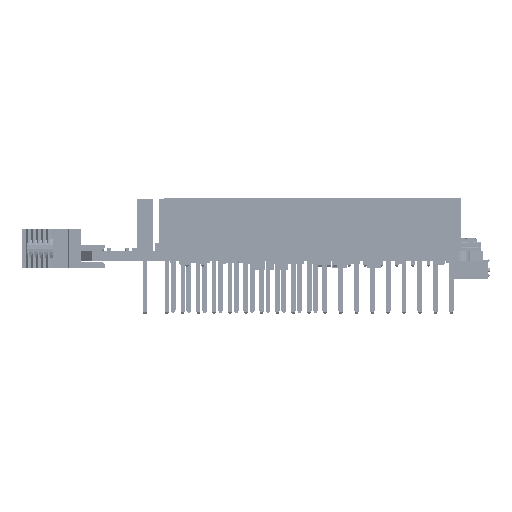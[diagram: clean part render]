
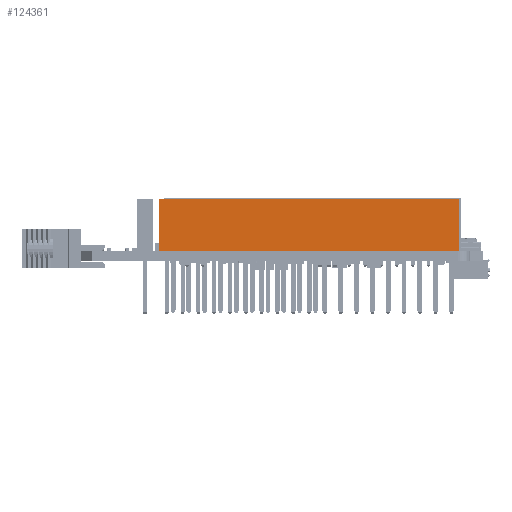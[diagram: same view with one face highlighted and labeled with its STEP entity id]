
A CAD part, left-side view. The second image highlights one B-rep face of the part: STEP entity #124361.
In plain terms, the highlighted planar face has unit normal (-1, 0, 0).
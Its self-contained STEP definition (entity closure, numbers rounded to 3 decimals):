
#124263 = EDGE_CURVE('',#124264,#124266,#124268,.T.);
#124264 = VERTEX_POINT('',#124265);
#124265 = CARTESIAN_POINT('',(-2.545,24.132,0.));
#124266 = VERTEX_POINT('',#124267);
#124267 = CARTESIAN_POINT('',(-2.545,24.132,8.38));
#124268 = LINE('',#124269,#124270);
#124269 = CARTESIAN_POINT('',(-2.545,24.132,0.));
#124270 = VECTOR('',#124271,1.);
#124271 = DIRECTION('',(0.,0.,1.));
#124336 = VERTEX_POINT('',#124337);
#124337 = CARTESIAN_POINT('',(-2.545,-24.132,8.38));
#124343 = EDGE_CURVE('',#124344,#124336,#124346,.T.);
#124344 = VERTEX_POINT('',#124345);
#124345 = CARTESIAN_POINT('',(-2.545,-24.132,0.));
#124346 = LINE('',#124347,#124348);
#124347 = CARTESIAN_POINT('',(-2.545,-24.132,0.));
#124348 = VECTOR('',#124349,1.);
#124349 = DIRECTION('',(0.,0.,1.));
#124361 = ADVANCED_FACE('',(#124362),#124378,.T.);
#124362 = FACE_BOUND('',#124363,.T.);
#124363 = EDGE_LOOP('',(#124364,#124365,#124371,#124372));
#124364 = ORIENTED_EDGE('',*,*,#124343,.T.);
#124365 = ORIENTED_EDGE('',*,*,#124366,.T.);
#124366 = EDGE_CURVE('',#124336,#124266,#124367,.T.);
#124367 = LINE('',#124368,#124369);
#124368 = CARTESIAN_POINT('',(-2.545,-24.132,8.38));
#124369 = VECTOR('',#124370,1.);
#124370 = DIRECTION('',(0.,1.,0.));
#124371 = ORIENTED_EDGE('',*,*,#124263,.F.);
#124372 = ORIENTED_EDGE('',*,*,#124373,.F.);
#124373 = EDGE_CURVE('',#124344,#124264,#124374,.T.);
#124374 = LINE('',#124375,#124376);
#124375 = CARTESIAN_POINT('',(-2.545,-24.132,0.));
#124376 = VECTOR('',#124377,1.);
#124377 = DIRECTION('',(0.,1.,0.));
#124378 = PLANE('',#124379);
#124379 = AXIS2_PLACEMENT_3D('',#124380,#124381,#124382);
#124380 = CARTESIAN_POINT('',(-2.545,-24.132,0.));
#124381 = DIRECTION('',(-1.,0.,0.));
#124382 = DIRECTION('',(0.,1.,0.));
